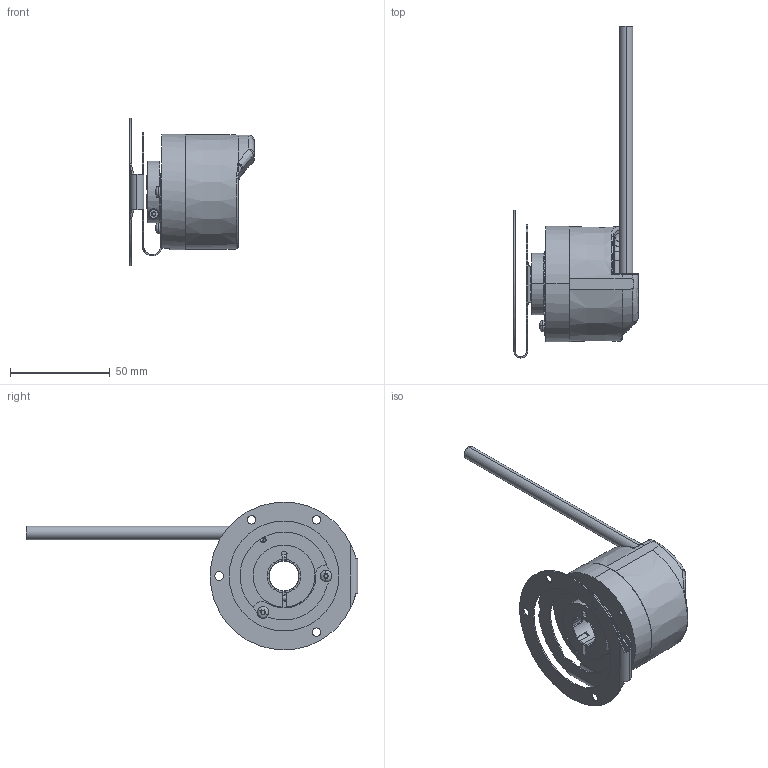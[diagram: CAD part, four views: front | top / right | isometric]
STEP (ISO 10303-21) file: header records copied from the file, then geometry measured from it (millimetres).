
FILE_DESCRIPTION (( 'STEP AP203' ), '1' );
FILE_NAME ('K58I.OXX.XXXXX.XH2353A.6XT11.XXXX.step', '2025-12-08T14:49:31', ( '' ), ( '' ), 'SwSTEP 2.0', 'SolidWorks 2021', '' );
FILE_SCHEMA (( 'CONFIG_CONTROL_DESIGN' ));
Length unit declared in the file: millimetre
Products named in the file (1): K58I.OXX.XXXXX.XH2353A.6XT11.XXXX
Bounding box: 62.19 x 166.1 x 74 mm (x, y, z)
Volume: 99729.9 mm3; surface area: 44077.3 mm2
Topology: 6 solids, 11 shells, 612 faces, 1564 edges, 974 vertices
Faces by surface type: cylinder 263, plane 160, cone 65, bspline 56, torus 53, sphere 15
Entity records: 22478 total; most frequent: CARTESIAN_POINT 7755, DIRECTION 3134, ORIENTED_EDGE 3078, EDGE_CURVE 1539, AXIS2_PLACEMENT_3D 1263, VERTEX_POINT 974, CIRCLE 706, EDGE_LOOP 665
